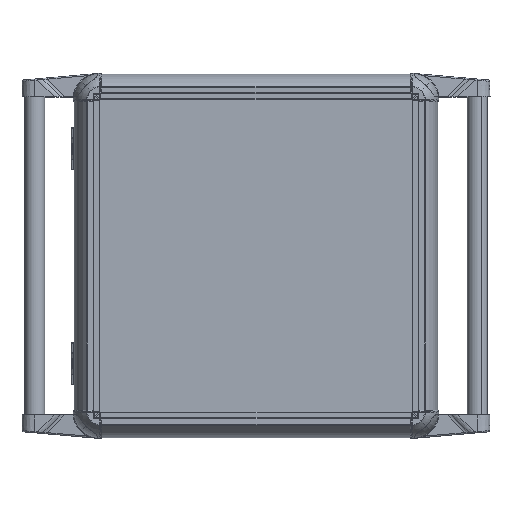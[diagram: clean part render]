
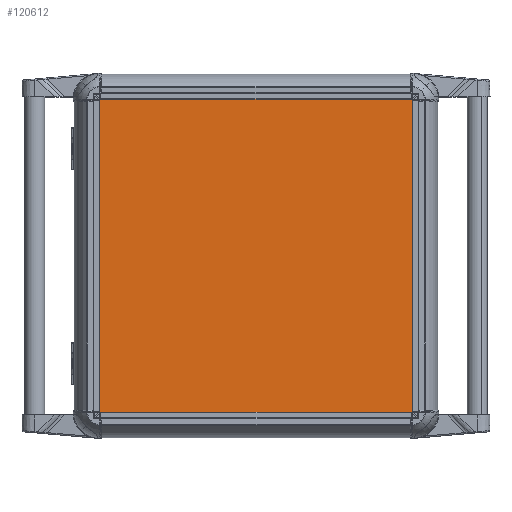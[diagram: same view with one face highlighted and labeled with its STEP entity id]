
A CAD part, top view. The second image highlights one B-rep face of the part: STEP entity #120612.
In plain terms, the highlighted planar face has unit normal (0, 0, 1).
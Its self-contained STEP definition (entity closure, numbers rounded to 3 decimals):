
#3795 = CARTESIAN_POINT ( 'NONE',  ( -150., 150., 2. ) ) ;
#8862 = CARTESIAN_POINT ( 'NONE',  ( -150., 150., 2. ) ) ;
#12386 = ORIENTED_EDGE ( 'NONE', *, *, #101216, .T. ) ;
#18725 = VECTOR ( 'NONE', #149200, 1000. ) ;
#21114 = EDGE_CURVE ( 'NONE', #148627, #36049, #203639, .T. ) ;
#30431 = EDGE_CURVE ( 'NONE', #36049, #183586, #194465, .T. ) ;
#36049 = VERTEX_POINT ( 'NONE', #56996 ) ;
#41946 = EDGE_LOOP ( 'NONE', ( #12386, #220621, #109537, #72319 ) ) ;
#56996 = CARTESIAN_POINT ( 'NONE',  ( -150., -150., 2. ) ) ;
#62345 = DIRECTION ( 'NONE',  ( 0., 1., 0. ) ) ;
#72319 = ORIENTED_EDGE ( 'NONE', *, *, #30431, .T. ) ;
#86839 = VERTEX_POINT ( 'NONE', #138708 ) ;
#87997 = PLANE ( 'NONE',  #131937 ) ;
#101216 = EDGE_CURVE ( 'NONE', #183586, #86839, #197224, .T. ) ;
#103763 = EDGE_CURVE ( 'NONE', #86839, #148627, #154868, .T. ) ;
#109537 = ORIENTED_EDGE ( 'NONE', *, *, #21114, .T. ) ;
#111121 = FACE_OUTER_BOUND ( 'NONE', #41946, .T. ) ;
#111412 = CARTESIAN_POINT ( 'NONE',  ( 150., 150., 2. ) ) ;
#120612 = ADVANCED_FACE ( 'NONE', ( #111121 ), #87997, .T. ) ;
#131937 = AXIS2_PLACEMENT_3D ( 'NONE', #158710, #229522, #141342 ) ;
#135055 = VECTOR ( 'NONE', #195585, 1000. ) ;
#138708 = CARTESIAN_POINT ( 'NONE',  ( 150., 150., 2. ) ) ;
#141342 = DIRECTION ( 'NONE',  ( 1., 0., 0. ) ) ;
#147793 = VECTOR ( 'NONE', #62345, 1000. ) ;
#148627 = VERTEX_POINT ( 'NONE', #3795 ) ;
#149200 = DIRECTION ( 'NONE',  ( 0., -1., 0. ) ) ;
#154868 = LINE ( 'NONE', #208234, #208346 ) ;
#155992 = DIRECTION ( 'NONE',  ( -1., 0., 0. ) ) ;
#158710 = CARTESIAN_POINT ( 'NONE',  ( 0., 0., 2. ) ) ;
#180102 = CARTESIAN_POINT ( 'NONE',  ( 150., -150., 2. ) ) ;
#183586 = VERTEX_POINT ( 'NONE', #180102 ) ;
#194465 = LINE ( 'NONE', #228163, #135055 ) ;
#195585 = DIRECTION ( 'NONE',  ( 1., 0., 0. ) ) ;
#197224 = LINE ( 'NONE', #111412, #147793 ) ;
#203639 = LINE ( 'NONE', #8862, #18725 ) ;
#208234 = CARTESIAN_POINT ( 'NONE',  ( -150., 150., 2. ) ) ;
#208346 = VECTOR ( 'NONE', #155992, 1000. ) ;
#220621 = ORIENTED_EDGE ( 'NONE', *, *, #103763, .T. ) ;
#228163 = CARTESIAN_POINT ( 'NONE',  ( -150., -150., 2. ) ) ;
#229522 = DIRECTION ( 'NONE',  ( 0., 0., 1. ) ) ;
